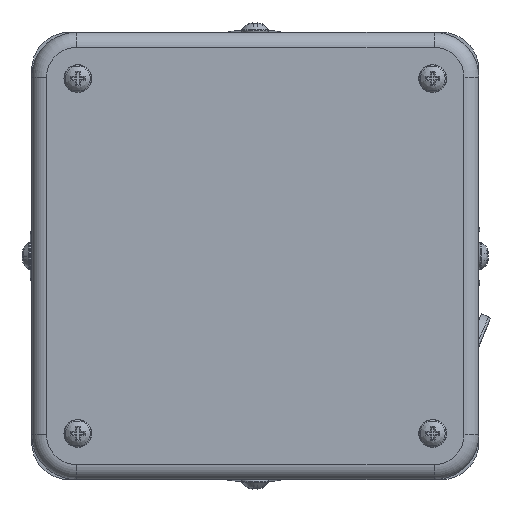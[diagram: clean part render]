
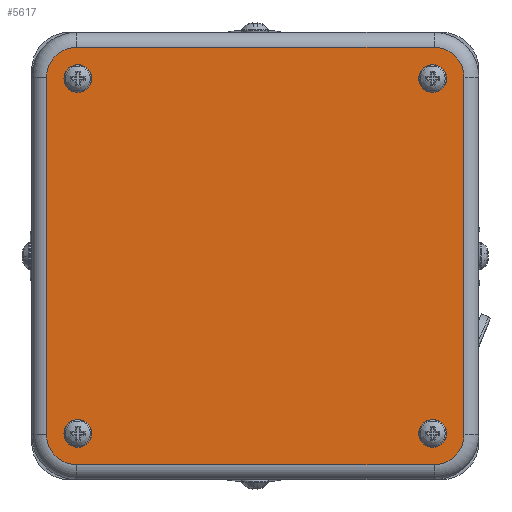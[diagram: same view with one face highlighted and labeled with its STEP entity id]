
A CAD part, left-side view. The second image highlights one B-rep face of the part: STEP entity #5617.
In plain terms, the highlighted planar face has unit normal (-1, 0, 0).
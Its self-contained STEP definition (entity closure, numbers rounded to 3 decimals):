
#1881=CARTESIAN_POINT('',(-108.076,-16.479,34.671));
#1882=VERTEX_POINT('',#1881);
#1883=CARTESIAN_POINT('',(-108.076,-16.479,37.471));
#1884=DIRECTION('',(1.0,0.0,0.0));
#1885=DIRECTION('',(0.0,0.0,1.0));
#1886=AXIS2_PLACEMENT_3D('',#1883,#1884,#1885);
#1887=CIRCLE('',#1886,2.8);
#1888=EDGE_CURVE('',#1882,#1882,#1887,.T.);
#2490=CARTESIAN_POINT('',(-108.076,-16.479,-36.747));
#2491=VERTEX_POINT('',#2490);
#2492=CARTESIAN_POINT('',(-108.076,-16.479,-33.947));
#2493=DIRECTION('',(1.0,0.0,0.0));
#2494=DIRECTION('',(0.0,0.0,1.0));
#2495=AXIS2_PLACEMENT_3D('',#2492,#2493,#2494);
#2496=CIRCLE('',#2495,2.8);
#2497=EDGE_CURVE('',#2491,#2491,#2496,.T.);
#5514=CARTESIAN_POINT('',(-108.076,12.203,-5.266));
#5515=DIRECTION('',(1.0,0.0,0.0));
#5516=DIRECTION('',(0.0,0.0,-1.0));
#5517=AXIS2_PLACEMENT_3D('',#5514,#5515,#5516);
#5518=PLANE('',#5517);
#5519=CARTESIAN_POINT('',(-108.076,-22.77,-34.238));
#5520=VERTEX_POINT('',#5519);
#5521=CARTESIAN_POINT('',(-108.076,-16.77,-40.238));
#5522=VERTEX_POINT('',#5521);
#5523=CARTESIAN_POINT('',(-108.076,-16.77,-34.238));
#5524=DIRECTION('',(1.,0.,0.));
#5525=DIRECTION('',(0.,-0.707,-0.707));
#5526=AXIS2_PLACEMENT_3D('',#5523,#5524,#5525);
#5527=CIRCLE('',#5526,6.);
#5528=EDGE_CURVE('',#5520,#5522,#5527,.T.);
#5529=ORIENTED_EDGE('',*,*,#5528,.F.);
#5530=CARTESIAN_POINT('',(-108.076,-22.77,37.762));
#5531=VERTEX_POINT('',#5530);
#5532=CARTESIAN_POINT('',(-108.076,-22.77,37.762));
#5533=DIRECTION('',(0.0,0.0,-1.0));
#5534=VECTOR('',#5533,72.0);
#5535=LINE('',#5532,#5534);
#5536=EDGE_CURVE('',#5531,#5520,#5535,.T.);
#5537=ORIENTED_EDGE('',*,*,#5536,.F.);
#5538=CARTESIAN_POINT('',(-108.076,-16.77,43.762));
#5539=VERTEX_POINT('',#5538);
#5540=CARTESIAN_POINT('',(-108.076,-16.77,37.762));
#5541=DIRECTION('',(1.,0.,0.));
#5542=DIRECTION('',(0.,-0.707,0.707));
#5543=AXIS2_PLACEMENT_3D('',#5540,#5541,#5542);
#5544=CIRCLE('',#5543,6.);
#5545=EDGE_CURVE('',#5539,#5531,#5544,.T.);
#5546=ORIENTED_EDGE('',*,*,#5545,.F.);
#5547=CARTESIAN_POINT('',(-108.076,55.23,43.762));
#5548=VERTEX_POINT('',#5547);
#5549=CARTESIAN_POINT('',(-108.076,55.23,43.762));
#5550=DIRECTION('',(0.0,-1.0,0.0));
#5551=VECTOR('',#5550,72.0);
#5552=LINE('',#5549,#5551);
#5553=EDGE_CURVE('',#5548,#5539,#5552,.T.);
#5554=ORIENTED_EDGE('',*,*,#5553,.F.);
#5555=CARTESIAN_POINT('',(-108.076,61.23,37.762));
#5556=VERTEX_POINT('',#5555);
#5557=CARTESIAN_POINT('',(-108.076,55.23,37.762));
#5558=DIRECTION('',(1.,0.,0.));
#5559=DIRECTION('',(0.,0.707,0.707));
#5560=AXIS2_PLACEMENT_3D('',#5557,#5558,#5559);
#5561=CIRCLE('',#5560,6.);
#5562=EDGE_CURVE('',#5556,#5548,#5561,.T.);
#5563=ORIENTED_EDGE('',*,*,#5562,.F.);
#5564=CARTESIAN_POINT('',(-108.076,61.23,-34.238));
#5565=VERTEX_POINT('',#5564);
#5566=CARTESIAN_POINT('',(-108.076,61.23,-34.238));
#5567=DIRECTION('',(0.0,0.0,1.0));
#5568=VECTOR('',#5567,72.);
#5569=LINE('',#5566,#5568);
#5570=EDGE_CURVE('',#5565,#5556,#5569,.T.);
#5571=ORIENTED_EDGE('',*,*,#5570,.F.);
#5572=CARTESIAN_POINT('',(-108.076,55.23,-40.238));
#5573=VERTEX_POINT('',#5572);
#5574=CARTESIAN_POINT('',(-108.076,55.23,-34.238));
#5575=DIRECTION('',(1.,0.,0.));
#5576=DIRECTION('',(0.,0.707,-0.707));
#5577=AXIS2_PLACEMENT_3D('',#5574,#5575,#5576);
#5578=CIRCLE('',#5577,6.);
#5579=EDGE_CURVE('',#5573,#5565,#5578,.T.);
#5580=ORIENTED_EDGE('',*,*,#5579,.F.);
#5581=CARTESIAN_POINT('',(-108.076,-16.77,-40.238));
#5582=DIRECTION('',(0.0,1.0,0.0));
#5583=VECTOR('',#5582,72.0);
#5584=LINE('',#5581,#5583);
#5585=EDGE_CURVE('',#5522,#5573,#5584,.T.);
#5586=ORIENTED_EDGE('',*,*,#5585,.F.);
#5587=EDGE_LOOP('',(#5529,#5537,#5546,#5554,#5563,#5571,#5580,#5586));
#5588=FACE_OUTER_BOUND('',#5587,.T.);
#5589=CARTESIAN_POINT('',(-108.076,54.939,34.671));
#5590=VERTEX_POINT('',#5589);
#5591=CARTESIAN_POINT('',(-108.076,54.939,37.471));
#5592=DIRECTION('',(1.0,0.0,0.0));
#5593=DIRECTION('',(0.0,0.0,1.0));
#5594=AXIS2_PLACEMENT_3D('',#5591,#5592,#5593);
#5595=CIRCLE('',#5594,2.8);
#5596=EDGE_CURVE('',#5590,#5590,#5595,.T.);
#5597=ORIENTED_EDGE('',*,*,#5596,.T.);
#5598=EDGE_LOOP('',(#5597));
#5599=FACE_BOUND('',#5598,.T.);
#5600=ORIENTED_EDGE('',*,*,#1888,.T.);
#5601=EDGE_LOOP('',(#5600));
#5602=FACE_BOUND('',#5601,.T.);
#5603=CARTESIAN_POINT('',(-108.076,54.939,-36.747));
#5604=VERTEX_POINT('',#5603);
#5605=CARTESIAN_POINT('',(-108.076,54.939,-33.947));
#5606=DIRECTION('',(1.0,0.0,0.0));
#5607=DIRECTION('',(0.0,0.0,1.0));
#5608=AXIS2_PLACEMENT_3D('',#5605,#5606,#5607);
#5609=CIRCLE('',#5608,2.8);
#5610=EDGE_CURVE('',#5604,#5604,#5609,.T.);
#5611=ORIENTED_EDGE('',*,*,#5610,.T.);
#5612=EDGE_LOOP('',(#5611));
#5613=FACE_BOUND('',#5612,.T.);
#5614=ORIENTED_EDGE('',*,*,#2497,.T.);
#5615=EDGE_LOOP('',(#5614));
#5616=FACE_BOUND('',#5615,.T.);
#5617=ADVANCED_FACE('',(#5588,#5599,#5602,#5613,#5616),#5518,.F.);
